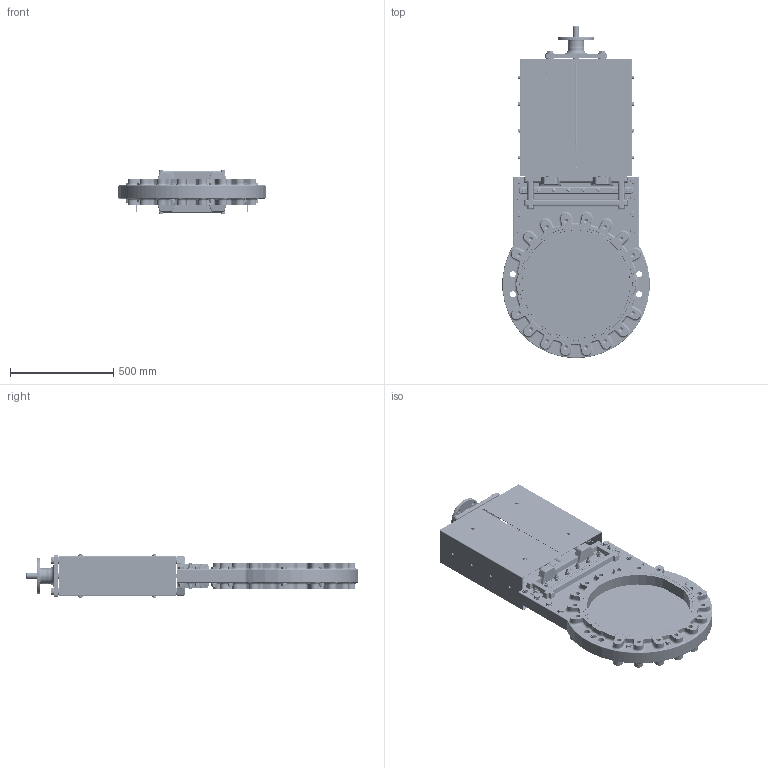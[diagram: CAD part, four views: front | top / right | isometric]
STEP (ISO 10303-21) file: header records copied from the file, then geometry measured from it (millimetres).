
FILE_DESCRIPTION(/* description */ (''),/* implementation_level */ '2;1');
FILE_NAME(/* name */ 'Rising stem knife gate valve with top flange DN500-10.stp',/* time_stamp */ '2025-04-21T16:17:46+08:00',/* author */ (''),/* organization */ (''),/* preprocessor_version */ 'ST-DEVELOPER v15',/* originating_system */ 'SIEMENS PLM Software NX 10.0',/* authorisation */ '');
FILE_SCHEMA (('AP203_CONFIGURATION_CONTROLLED_3D_DESIGN_OF_MECHANICAL_PARTS_AND_ASSEMBLIES_MIM_LF { 1 0 10303 403 2 1 2}'));
Products named in the file (1): Admi256412D81njo
Bounding box: 712.34 x 1608.23 x 211.8 mm (x, y, z)
Volume: 39294810.2 mm3; surface area: 4389343.3 mm2
Topology: 1 solids, 61 shells, 3743 faces, 8941 edges, 5563 vertices
Faces by surface type: plane 1568, cylinder 1024, cone 395, extrusion 337, torus 163, sphere 140, bspline 116
Full cylindrical faces by diameter (mm): 2 x4, 5.2 x1, 8 x16, 8.4 x16, 8.5 x8, 9.5 x16, 10 x8, 10.5 x8, 11 x12, 11.4 x8, 12 x40, 12.5 x16, 13 x16, 15.053 x14, 15.6 x8, 16 x48, 16.5 x2, 17 x28, 17.5 x8, 18 x4, 19.053 x4, 20 x16, 21 x44, 22 x30, 23 x2, 24 x17, 25 x5, 27 x4, 28 x4, 29 x4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
Entity records: 107648 total; most frequent: CARTESIAN_POINT 28371, DIRECTION 15640, ORIENTED_EDGE 15320, EDGE_CURVE 7660, AXIS2_PLACEMENT_3D 6181, VERTEX_POINT 5251, EDGE_LOOP 5107, ADVANCED_FACE 3743
